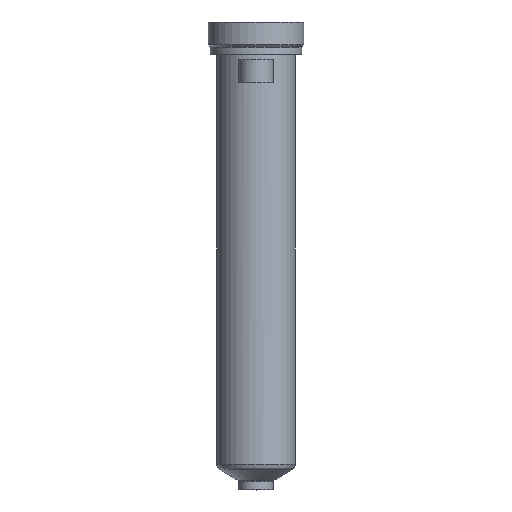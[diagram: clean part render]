
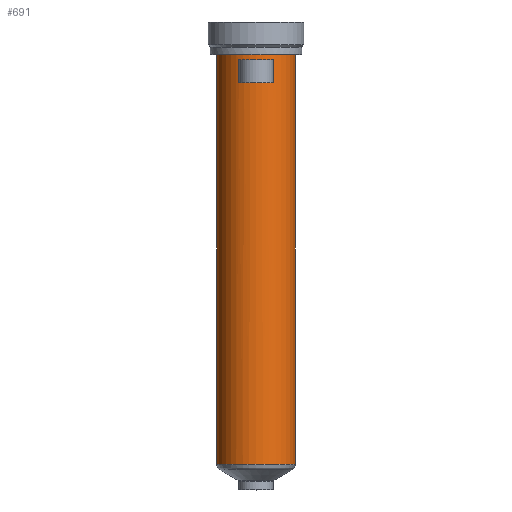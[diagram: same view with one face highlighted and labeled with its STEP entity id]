
A CAD part, top view. The second image highlights one B-rep face of the part: STEP entity #691.
In plain terms, the highlighted cylindrical face has radius 18 mm (diameter 36 mm), a partial arc.
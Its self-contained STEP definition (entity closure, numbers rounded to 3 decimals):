
#187=DIRECTION('',(0.,-1.,0.));
#188=VECTOR('',#187,188.206);
#189=CARTESIAN_POINT('',(18.,0.,0.));
#190=LINE('',#189,#188);
#191=CARTESIAN_POINT('',(0.,-188.206,0.));
#192=DIRECTION('',(0.,1.,0.));
#193=DIRECTION('',(-1.,0.,0.));
#194=AXIS2_PLACEMENT_3D('',#191,#192,#193);
#196=DIRECTION('',(0.,1.,0.));
#197=VECTOR('',#196,188.206);
#198=CARTESIAN_POINT('',(-18.,-188.206,0.));
#199=LINE('',#198,#197);
#200=CARTESIAN_POINT('',(0.,0.,0.));
#201=DIRECTION('',(0.,1.,0.));
#202=DIRECTION('',(-1.,0.,0.));
#203=AXIS2_PLACEMENT_3D('',#200,#201,#202);
#281=DIRECTION('',(0.,-1.,0.));
#282=VECTOR('',#281,10.5);
#283=CARTESIAN_POINT('',(-8.,-2.5,16.125));
#284=LINE('',#283,#282);
#285=CARTESIAN_POINT('',(0.,-13.,0.));
#286=DIRECTION('',(0.,1.,0.));
#287=DIRECTION('',(-0.444,0.,0.896));
#288=AXIS2_PLACEMENT_3D('',#285,#286,#287);
#311=CARTESIAN_POINT('',(0.,-2.5,0.));
#312=DIRECTION('',(0.,-1.,0.));
#313=DIRECTION('',(0.444,0.,0.896));
#314=AXIS2_PLACEMENT_3D('',#311,#312,#313);
#329=DIRECTION('',(0.,-1.,0.));
#330=VECTOR('',#329,10.5);
#331=CARTESIAN_POINT('',(8.,-2.5,16.125));
#332=LINE('',#331,#330);
#390=CARTESIAN_POINT('',(-18.,0.,0.));
#391=CARTESIAN_POINT('',(18.,0.,0.));
#392=VERTEX_POINT('',#390);
#393=VERTEX_POINT('',#391);
#402=CARTESIAN_POINT('',(-8.,-2.5,16.125));
#403=VERTEX_POINT('',#402);
#404=CARTESIAN_POINT('',(8.,-2.5,16.125));
#405=VERTEX_POINT('',#404);
#438=CARTESIAN_POINT('',(18.,-188.206,0.));
#439=VERTEX_POINT('',#438);
#448=CARTESIAN_POINT('',(-18.,-188.206,0.));
#449=VERTEX_POINT('',#448);
#450=CARTESIAN_POINT('',(-8.,-13.,16.125));
#451=CARTESIAN_POINT('',(8.,-13.,16.125));
#452=VERTEX_POINT('',#450);
#453=VERTEX_POINT('',#451);
#669=CARTESIAN_POINT('',(0.,16.4,0.));
#670=DIRECTION('',(0.,-1.,0.));
#671=DIRECTION('',(-1.,0.,0.));
#672=AXIS2_PLACEMENT_3D('',#669,#670,#671);
#673=CYLINDRICAL_SURFACE('',#672,18.);
#674=ORIENTED_EDGE('',*,*,#663,.T.);
#676=ORIENTED_EDGE('',*,*,#675,.F.);
#677=ORIENTED_EDGE('',*,*,#659,.T.);
#678=ORIENTED_EDGE('',*,*,#649,.T.);
#679=EDGE_LOOP('',(#674,#676,#677,#678));
#680=FACE_OUTER_BOUND('',#679,.F.);
#682=ORIENTED_EDGE('',*,*,#681,.T.);
#684=ORIENTED_EDGE('',*,*,#683,.T.);
#686=ORIENTED_EDGE('',*,*,#685,.F.);
#688=ORIENTED_EDGE('',*,*,#687,.T.);
#689=EDGE_LOOP('',(#682,#684,#686,#688));
#690=FACE_BOUND('',#689,.F.);
#691=ADVANCED_FACE('',(#680,#690),#673,.T.);
#195=CIRCLE('',#194,18.);
#204=CIRCLE('',#203,18.);
#289=CIRCLE('',#288,18.);
#315=CIRCLE('',#314,18.);
#649=EDGE_CURVE('',#392,#393,#204,.T.);
#659=EDGE_CURVE('',#449,#392,#199,.T.);
#663=EDGE_CURVE('',#393,#439,#190,.T.);
#675=EDGE_CURVE('',#449,#439,#195,.T.);
#681=EDGE_CURVE('',#403,#452,#284,.T.);
#683=EDGE_CURVE('',#452,#453,#289,.T.);
#685=EDGE_CURVE('',#405,#453,#332,.T.);
#687=EDGE_CURVE('',#405,#403,#315,.T.);
